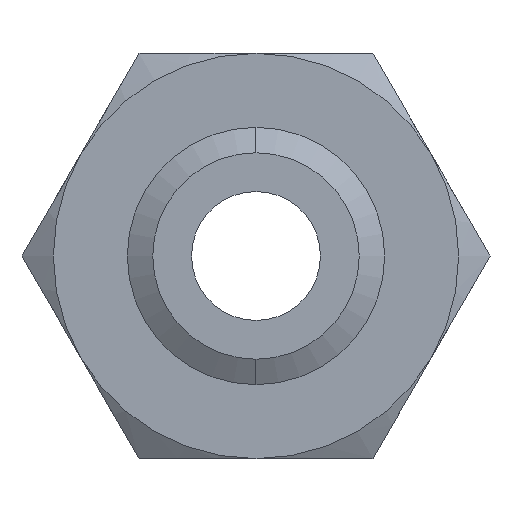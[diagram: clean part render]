
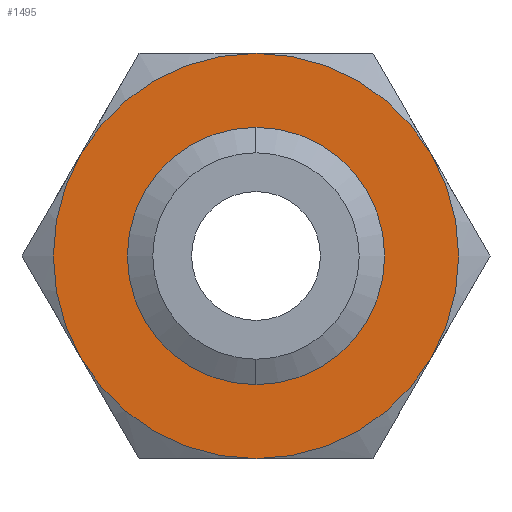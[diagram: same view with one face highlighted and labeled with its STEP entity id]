
A CAD part, front view. The second image highlights one B-rep face of the part: STEP entity #1495.
In plain terms, the highlighted planar face has unit normal (0, -1, 0).
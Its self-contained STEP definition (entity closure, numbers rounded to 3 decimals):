
#17 = VERTEX_POINT ( 'NONE', #78 ) ;
#21 = EDGE_CURVE ( 'NONE', #1665, #17, #132, .T. ) ;
#34 = CARTESIAN_POINT ( 'NONE',  ( 0., 0., 0. ) ) ;
#35 = DIRECTION ( 'NONE',  ( 0., 1., 0. ) ) ;
#78 = CARTESIAN_POINT ( 'NONE',  ( 0., 0., 12.731 ) ) ;
#129 = DIRECTION ( 'NONE',  ( 0., 0., -1. ) ) ;
#130 = DIRECTION ( 'NONE',  ( 0., -1., 0. ) ) ;
#131 = AXIS2_PLACEMENT_3D ( 'NONE', #138, #130, #129 ) ;
#132 = CIRCLE ( 'NONE', #131, 12.731 ) ;
#138 = CARTESIAN_POINT ( 'NONE',  ( 0., 0., 0. ) ) ;
#233 = AXIS2_PLACEMENT_3D ( 'NONE', #240, #296, #295 ) ;
#234 = CIRCLE ( 'NONE', #233, 25. ) ;
#240 = CARTESIAN_POINT ( 'NONE',  ( 0., 0., 0. ) ) ;
#242 = CARTESIAN_POINT ( 'NONE',  ( 0., 0., 25. ) ) ;
#243 = CARTESIAN_POINT ( 'NONE',  ( 21.651, 0., 12.5 ) ) ;
#274 = CARTESIAN_POINT ( 'NONE',  ( -21.651, 0., 12.5 ) ) ;
#275 = DIRECTION ( 'NONE',  ( 0., 0., -1. ) ) ;
#276 = DIRECTION ( 'NONE',  ( 0., -1., 0. ) ) ;
#277 = CARTESIAN_POINT ( 'NONE',  ( 0., 0., 0. ) ) ;
#278 = AXIS2_PLACEMENT_3D ( 'NONE', #277, #276, #275 ) ;
#279 = CIRCLE ( 'NONE', #278, 12.731 ) ;
#281 = CARTESIAN_POINT ( 'NONE',  ( 0., 0., -25. ) ) ;
#295 = DIRECTION ( 'NONE',  ( 0., 0., 1. ) ) ;
#296 = DIRECTION ( 'NONE',  ( 0., 1., 0. ) ) ;
#297 = AXIS2_PLACEMENT_3D ( 'NONE', #34, #35, #1774 ) ;
#298 = CIRCLE ( 'NONE', #297, 25. ) ;
#306 = DIRECTION ( 'NONE',  ( 0., 0., 1. ) ) ;
#307 = DIRECTION ( 'NONE',  ( 0., 1., 0. ) ) ;
#308 = CARTESIAN_POINT ( 'NONE',  ( 14.434, 0., -25. ) ) ;
#309 = AXIS2_PLACEMENT_3D ( 'NONE', #308, #307, #306 ) ;
#310 = PLANE ( 'NONE',  #309 ) ;
#311 = FACE_BOUND ( 'NONE', #1503, .T. ) ;
#312 = FACE_OUTER_BOUND ( 'NONE', #1497, .T. ) ;
#313 = DIRECTION ( 'NONE',  ( 0., 0., 1. ) ) ;
#314 = DIRECTION ( 'NONE',  ( 0., 1., 0. ) ) ;
#315 = CARTESIAN_POINT ( 'NONE',  ( 0., 0., 0. ) ) ;
#316 = AXIS2_PLACEMENT_3D ( 'NONE', #315, #314, #313 ) ;
#317 = CIRCLE ( 'NONE', #316, 25. ) ;
#318 = CARTESIAN_POINT ( 'NONE',  ( -21.651, 0., -12.5 ) ) ;
#340 = CARTESIAN_POINT ( 'NONE',  ( 21.651, 0., -12.5 ) ) ;
#341 = DIRECTION ( 'NONE',  ( 0., 0., 1. ) ) ;
#342 = DIRECTION ( 'NONE',  ( 0., 1., 0. ) ) ;
#343 = CARTESIAN_POINT ( 'NONE',  ( 0., 0., 0. ) ) ;
#344 = AXIS2_PLACEMENT_3D ( 'NONE', #343, #342, #341 ) ;
#345 = CIRCLE ( 'NONE', #344, 25. ) ;
#354 = DIRECTION ( 'NONE',  ( 0., 0., 1. ) ) ;
#355 = DIRECTION ( 'NONE',  ( 0., 1., 0. ) ) ;
#356 = CARTESIAN_POINT ( 'NONE',  ( 0., 0., 0. ) ) ;
#357 = AXIS2_PLACEMENT_3D ( 'NONE', #356, #355, #354 ) ;
#358 = CIRCLE ( 'NONE', #357, 25. ) ;
#464 = DIRECTION ( 'NONE',  ( 0., 0., 1. ) ) ;
#465 = DIRECTION ( 'NONE',  ( 0., 1., 0. ) ) ;
#466 = CARTESIAN_POINT ( 'NONE',  ( 0., 0., 0. ) ) ;
#467 = AXIS2_PLACEMENT_3D ( 'NONE', #466, #465, #464 ) ;
#468 = CIRCLE ( 'NONE', #467, 25. ) ;
#663 = CARTESIAN_POINT ( 'NONE',  ( 0., 0., -12.731 ) ) ;
#1466 = VERTEX_POINT ( 'NONE', #243 ) ;
#1467 = VERTEX_POINT ( 'NONE', #242 ) ;
#1470 = ORIENTED_EDGE ( 'NONE', *, *, #1472, .F. ) ;
#1472 = EDGE_CURVE ( 'NONE', #1467, #1466, #234, .T. ) ;
#1478 = VERTEX_POINT ( 'NONE', #281 ) ;
#1479 = ORIENTED_EDGE ( 'NONE', *, *, #21, .F. ) ;
#1481 = ORIENTED_EDGE ( 'NONE', *, *, #1482, .F. ) ;
#1482 = EDGE_CURVE ( 'NONE', #17, #1665, #279, .T. ) ;
#1483 = VERTEX_POINT ( 'NONE', #274 ) ;
#1485 = ORIENTED_EDGE ( 'NONE', *, *, #1493, .F. ) ;
#1492 = VERTEX_POINT ( 'NONE', #318 ) ;
#1493 = EDGE_CURVE ( 'NONE', #1492, #1483, #317, .T. ) ;
#1494 = ORIENTED_EDGE ( 'NONE', *, *, #1499, .F. ) ;
#1495 = ADVANCED_FACE ( 'NONE', ( #312, #311 ), #310, .F. ) ;
#1497 = EDGE_LOOP ( 'NONE', ( #1470, #1502, #1485, #1494, #1519, #1510 ) ) ;
#1499 = EDGE_CURVE ( 'NONE', #1478, #1492, #298, .T. ) ;
#1501 = EDGE_CURVE ( 'NONE', #1483, #1467, #358, .T. ) ;
#1502 = ORIENTED_EDGE ( 'NONE', *, *, #1501, .F. ) ;
#1503 = EDGE_LOOP ( 'NONE', ( #1479, #1481 ) ) ;
#1509 = EDGE_CURVE ( 'NONE', #1466, #1511, #345, .T. ) ;
#1510 = ORIENTED_EDGE ( 'NONE', *, *, #1509, .F. ) ;
#1511 = VERTEX_POINT ( 'NONE', #340 ) ;
#1519 = ORIENTED_EDGE ( 'NONE', *, *, #1553, .F. ) ;
#1553 = EDGE_CURVE ( 'NONE', #1511, #1478, #468, .T. ) ;
#1665 = VERTEX_POINT ( 'NONE', #663 ) ;
#1774 = DIRECTION ( 'NONE',  ( 0., 0., 1. ) ) ;
